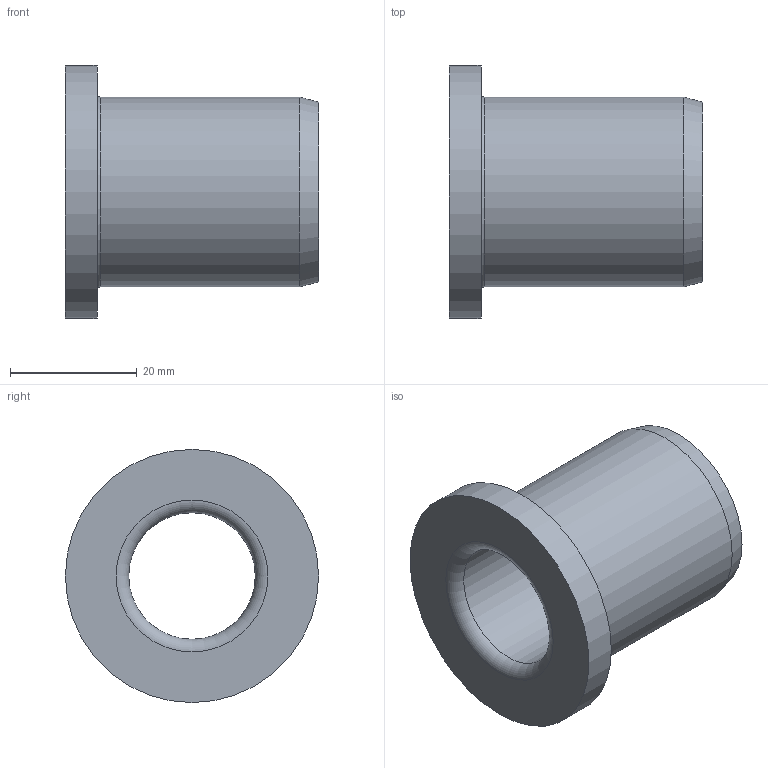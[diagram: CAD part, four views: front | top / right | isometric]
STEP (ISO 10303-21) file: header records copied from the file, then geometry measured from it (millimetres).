
FILE_DESCRIPTION(/* description */ ('Impex Ready, www.impex-ready.pl'),/* implementation_level */ '2;1');
FILE_NAME(/* name */ 'C:\Users\VIKKY\Nextcloud\SM\projekt 10 - części na stronę internetową\Pliki_3D_new\309 Tuleje BG07\309_BG07_STEP\BG07.020040.ipt.step',/* time_stamp */ '2021-12-17T16:44:47+01:00',/* author */ ('SM'),/* organization */ (''),/* preprocessor_version */ 'ST-DEVELOPER v18.1',/* originating_system */ 'Autodesk Inventor 2021',/* authorisation */ '');
FILE_SCHEMA (('AUTOMOTIVE_DESIGN { 1 0 10303 214 3 1 1 }'));
Length unit declared in the file: millimetre
Products named in the file (1): BG07.020040
Bounding box: 40 x 40 x 40 mm (x, y, z)
Volume: 18237.7 mm3; surface area: 8129.2 mm2
Topology: 1 solids, 1 shells, 10 faces, 20 edges, 13 vertices
Faces by surface type: torus 3, cylinder 3, plane 3, cone 1
Full cylindrical faces by diameter (mm): 20 x1, 30 x1, 40 x1
Entity records: 345 total; most frequent: DIRECTION 58, CARTESIAN_POINT 44, ORIENTED_EDGE 40, AXIS2_PLACEMENT_3D 27, EDGE_CURVE 20, CIRCLE 16, EDGE_LOOP 13, VERTEX_POINT 13
